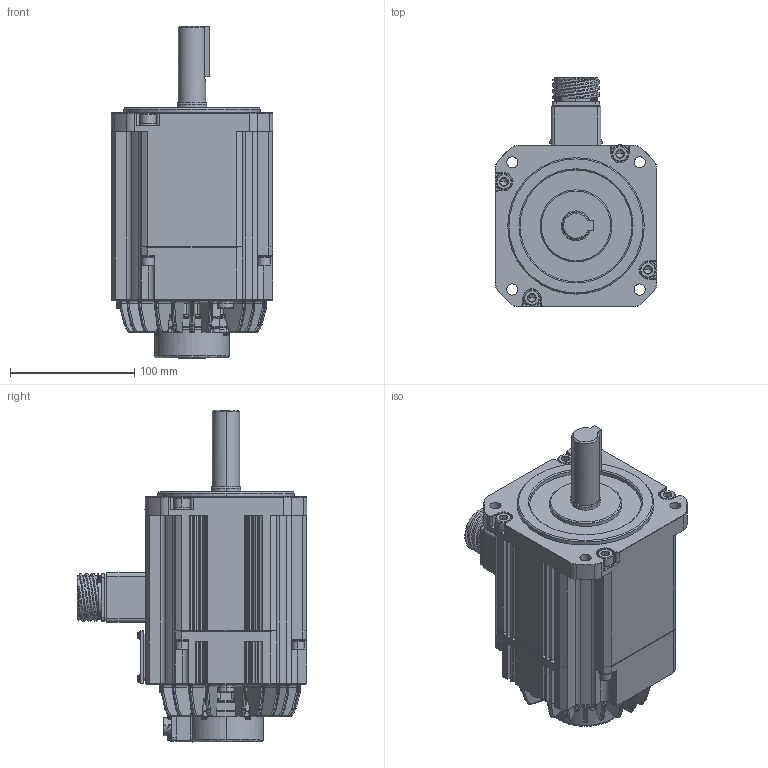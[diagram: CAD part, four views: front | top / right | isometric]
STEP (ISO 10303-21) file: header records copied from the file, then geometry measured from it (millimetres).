
FILE_DESCRIPTION (( 'STEP AP203' ), '1' );
FILE_NAME ('TSM3506N2375E721-1.STEP', '2018-06-29T07:33:43', ( '' ), ( '' ), 'SwSTEP 2.0', 'SolidWorks 2017', '' );
FILE_SCHEMA (( 'CONFIG_CONTROL_DESIGN' ));
Products named in the file (1): TSM3506N2375E721-1
Bounding box: 130.5 x 185.2 x 267.5 mm (x, y, z)
Volume: 2525842 mm3; surface area: 181291.7 mm2
Topology: 1 solids, 27 shells, 3397 faces, 8532 edges, 5213 vertices
Faces by surface type: plane 1159, bspline 1100, cylinder 879, cone 259
Entity records: 164285 total; most frequent: CARTESIAN_POINT 92117, ORIENTED_EDGE 16854, DIRECTION 12216, EDGE_CURVE 8427, VERTEX_POINT 5213, AXIS2_PLACEMENT_3D 4168, LINE 3880, VECTOR 3880
